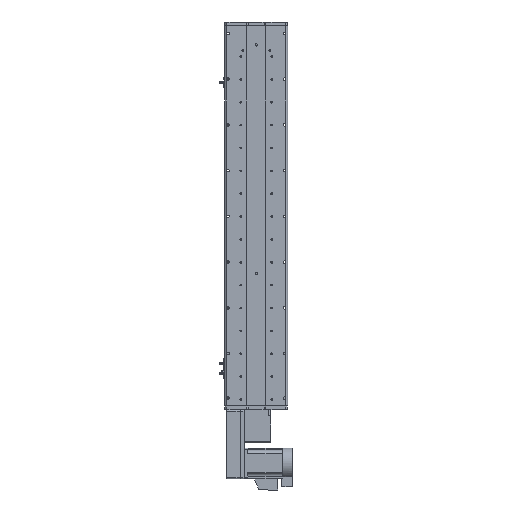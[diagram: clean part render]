
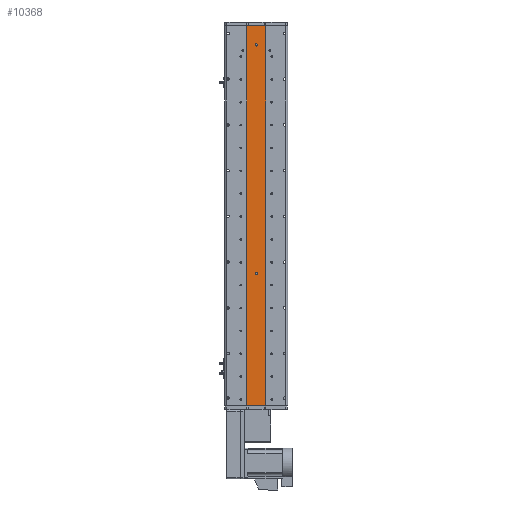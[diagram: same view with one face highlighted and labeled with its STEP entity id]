
A CAD part, front view. The second image highlights one B-rep face of the part: STEP entity #10368.
In plain terms, the highlighted planar face has unit normal (0, -1, 0).
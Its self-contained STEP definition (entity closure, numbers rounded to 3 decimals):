
#557 = DIRECTION ( 'NONE',  ( 0., 0., 1. ) ) ;
#1046 = DIRECTION ( 'NONE',  ( 0., 0., -1. ) ) ;
#5255 = EDGE_LOOP ( 'NONE', ( #47851, #62337 ) ) ;
#5295 = DIRECTION ( 'NONE',  ( 1., 0., 0. ) ) ;
#5708 = DIRECTION ( 'NONE',  ( 0., 0., -1. ) ) ;
#8579 = DIRECTION ( 'NONE',  ( 0., 0., -1. ) ) ;
#9624 = EDGE_CURVE ( 'NONE', #55041, #9782, #46287, .T. ) ;
#9782 = VERTEX_POINT ( 'NONE', #20509 ) ;
#10368 = ADVANCED_FACE ( 'NONE', ( #60802, #24508, #47687 ), #25143, .F. ) ;
#13049 = CARTESIAN_POINT ( 'NONE',  ( 0., 1., 448.5 ) ) ;
#13115 = EDGE_LOOP ( 'NONE', ( #63425, #24788 ) ) ;
#14028 = VECTOR ( 'NONE', #47167, 1000. ) ;
#14306 = CARTESIAN_POINT ( 'NONE',  ( 0., 1., -151.5 ) ) ;
#16150 = CARTESIAN_POINT ( 'NONE',  ( 25., 1., -498.5 ) ) ;
#17298 = EDGE_LOOP ( 'NONE', ( #38287, #61646, #43413, #39556 ) ) ;
#18003 = DIRECTION ( 'NONE',  ( 0., 0., -1. ) ) ;
#19281 = DIRECTION ( 'NONE',  ( 0., 0., -1. ) ) ;
#19951 = VECTOR ( 'NONE', #5708, 1000. ) ;
#20509 = CARTESIAN_POINT ( 'NONE',  ( 0., 1., -148.5 ) ) ;
#21537 = AXIS2_PLACEMENT_3D ( 'NONE', #14306, #48806, #19281 ) ;
#22212 = DIRECTION ( 'NONE',  ( 0., -1., 0. ) ) ;
#24508 = FACE_BOUND ( 'NONE', #13115, .T. ) ;
#24555 = VERTEX_POINT ( 'NONE', #42573 ) ;
#24788 = ORIENTED_EDGE ( 'NONE', *, *, #34751, .F. ) ;
#25143 = PLANE ( 'NONE',  #37702 ) ;
#25673 = AXIS2_PLACEMENT_3D ( 'NONE', #13049, #47569, #18003 ) ;
#25746 = CARTESIAN_POINT ( 'NONE',  ( 25., 1., 498.5 ) ) ;
#27175 = LINE ( 'NONE', #56876, #14028 ) ;
#27202 = VECTOR ( 'NONE', #8579, 1000. ) ;
#28136 = CIRCLE ( 'NONE', #50634, 3. ) ;
#30133 = DIRECTION ( 'NONE',  ( 0., 1., 0. ) ) ;
#30600 = DIRECTION ( 'NONE',  ( 0., -1., 0. ) ) ;
#34751 = EDGE_CURVE ( 'NONE', #9782, #55041, #28136, .T. ) ;
#34940 = LINE ( 'NONE', #48011, #27202 ) ;
#37702 = AXIS2_PLACEMENT_3D ( 'NONE', #59674, #30133, #557 ) ;
#38287 = ORIENTED_EDGE ( 'NONE', *, *, #48082, .T. ) ;
#39556 = ORIENTED_EDGE ( 'NONE', *, *, #59902, .T. ) ;
#39797 = CARTESIAN_POINT ( 'NONE',  ( 25., 1., -498.5 ) ) ;
#40183 = EDGE_CURVE ( 'NONE', #52183, #42489, #61002, .T. ) ;
#41683 = CIRCLE ( 'NONE', #42562, 3. ) ;
#42195 = VERTEX_POINT ( 'NONE', #49029 ) ;
#42489 = VERTEX_POINT ( 'NONE', #53539 ) ;
#42562 = AXIS2_PLACEMENT_3D ( 'NONE', #60158, #30600, #1046 ) ;
#42573 = CARTESIAN_POINT ( 'NONE',  ( -25., 1., -498.5 ) ) ;
#43413 = ORIENTED_EDGE ( 'NONE', *, *, #49206, .F. ) ;
#45397 = EDGE_CURVE ( 'NONE', #42489, #52183, #41683, .T. ) ;
#46239 = LINE ( 'NONE', #25746, #19951 ) ;
#46287 = CIRCLE ( 'NONE', #21537, 3. ) ;
#46584 = CARTESIAN_POINT ( 'NONE',  ( 0., 1., 451.5 ) ) ;
#47167 = DIRECTION ( 'NONE',  ( 1., 0., 0. ) ) ;
#47569 = DIRECTION ( 'NONE',  ( 0., -1., 0. ) ) ;
#47687 = FACE_OUTER_BOUND ( 'NONE', #17298, .T. ) ;
#47851 = ORIENTED_EDGE ( 'NONE', *, *, #45397, .F. ) ;
#48011 = CARTESIAN_POINT ( 'NONE',  ( -25., 1., 498.5 ) ) ;
#48082 = EDGE_CURVE ( 'NONE', #24555, #52054, #55980, .T. ) ;
#48806 = DIRECTION ( 'NONE',  ( 0., -1., 0. ) ) ;
#49029 = CARTESIAN_POINT ( 'NONE',  ( -25., 1., 498.5 ) ) ;
#49206 = EDGE_CURVE ( 'NONE', #42195, #59321, #27175, .T. ) ;
#50634 = AXIS2_PLACEMENT_3D ( 'NONE', #51794, #22212, #56754 ) ;
#51794 = CARTESIAN_POINT ( 'NONE',  ( 0., 1., -151.5 ) ) ;
#52054 = VERTEX_POINT ( 'NONE', #16150 ) ;
#52183 = VERTEX_POINT ( 'NONE', #46584 ) ;
#52891 = VECTOR ( 'NONE', #5295, 1000. ) ;
#53496 = CARTESIAN_POINT ( 'NONE',  ( 25., 1., 498.5 ) ) ;
#53539 = CARTESIAN_POINT ( 'NONE',  ( 0., 1., 445.5 ) ) ;
#55041 = VERTEX_POINT ( 'NONE', #63907 ) ;
#55980 = LINE ( 'NONE', #39797, #52891 ) ;
#56754 = DIRECTION ( 'NONE',  ( 0., 0., -1. ) ) ;
#56876 = CARTESIAN_POINT ( 'NONE',  ( 25., 1., 498.5 ) ) ;
#59321 = VERTEX_POINT ( 'NONE', #53496 ) ;
#59674 = CARTESIAN_POINT ( 'NONE',  ( 25., 1., 498.5 ) ) ;
#59902 = EDGE_CURVE ( 'NONE', #42195, #24555, #34940, .T. ) ;
#60158 = CARTESIAN_POINT ( 'NONE',  ( 0., 1., 448.5 ) ) ;
#60802 = FACE_BOUND ( 'NONE', #5255, .T. ) ;
#61002 = CIRCLE ( 'NONE', #25673, 3. ) ;
#61646 = ORIENTED_EDGE ( 'NONE', *, *, #61901, .F. ) ;
#61901 = EDGE_CURVE ( 'NONE', #59321, #52054, #46239, .T. ) ;
#62337 = ORIENTED_EDGE ( 'NONE', *, *, #40183, .F. ) ;
#63425 = ORIENTED_EDGE ( 'NONE', *, *, #9624, .F. ) ;
#63907 = CARTESIAN_POINT ( 'NONE',  ( 0., 1., -154.5 ) ) ;
